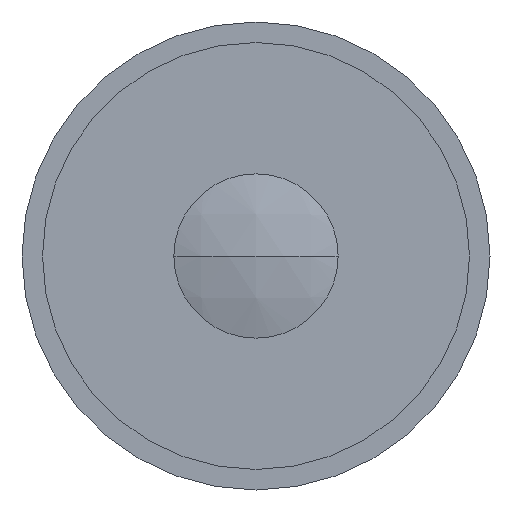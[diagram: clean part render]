
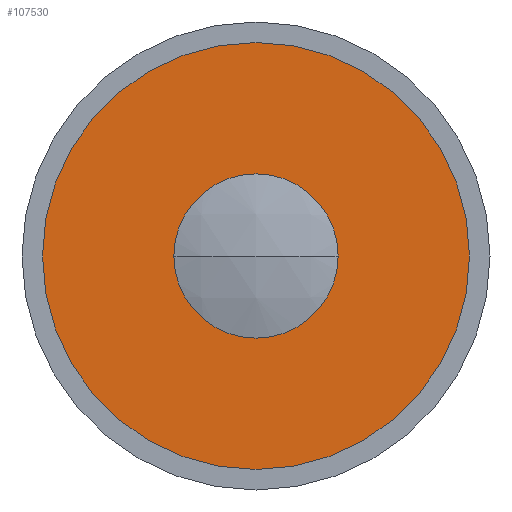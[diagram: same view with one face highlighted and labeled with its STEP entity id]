
A CAD part, front view. The second image highlights one B-rep face of the part: STEP entity #107530.
In plain terms, the highlighted planar face has unit normal (0, -1, 0).
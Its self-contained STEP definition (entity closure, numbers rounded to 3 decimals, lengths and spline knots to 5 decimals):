
#8746 = ORIENTED_EDGE ( 'NONE', *, *, #36482, .F. ) ;
#8953 = EDGE_LOOP ( 'NONE', ( #39293, #105812 ) ) ;
#9617 = CARTESIAN_POINT ( 'NONE',  ( 0., 0.00822, 0. ) ) ;
#11827 = AXIS2_PLACEMENT_3D ( 'NONE', #9617, #94678, #21808 ) ;
#12300 = FACE_BOUND ( 'NONE', #31195, .T. ) ;
#18811 = DIRECTION ( 'NONE',  ( 0., -1., 0. ) ) ;
#21808 = DIRECTION ( 'NONE',  ( 0., 0., -1. ) ) ;
#25323 = CARTESIAN_POINT ( 'NONE',  ( 0., 0.00822, 0. ) ) ;
#30234 = DIRECTION ( 'NONE',  ( 0., 0., -1. ) ) ;
#31195 = EDGE_LOOP ( 'NONE', ( #8746, #141700 ) ) ;
#31411 = FACE_OUTER_BOUND ( 'NONE', #8953, .T. ) ;
#36482 = EDGE_CURVE ( 'NONE', #53793, #111123, #148492, .T. ) ;
#37544 = DIRECTION ( 'NONE',  ( 0., 0., -1. ) ) ;
#39293 = ORIENTED_EDGE ( 'NONE', *, *, #57196, .T. ) ;
#41480 = AXIS2_PLACEMENT_3D ( 'NONE', #115014, #42156, #127264 ) ;
#42156 = DIRECTION ( 'NONE',  ( 0., -1., 0. ) ) ;
#53793 = VERTEX_POINT ( 'NONE', #61799 ) ;
#55250 = EDGE_CURVE ( 'NONE', #96792, #67521, #98872, .T. ) ;
#57196 = EDGE_CURVE ( 'NONE', #67521, #96792, #58861, .T. ) ;
#58861 = CIRCLE ( 'NONE', #11827, 0.13 ) ;
#60402 = CIRCLE ( 'NONE', #117223, 0.05 ) ;
#61486 = CARTESIAN_POINT ( 'NONE',  ( 0., 0.00822, 0.13 ) ) ;
#61799 = CARTESIAN_POINT ( 'NONE',  ( 0., 0.00822, -0.05 ) ) ;
#66172 = AXIS2_PLACEMENT_3D ( 'NONE', #151513, #103113, #30234 ) ;
#67521 = VERTEX_POINT ( 'NONE', #78493 ) ;
#78493 = CARTESIAN_POINT ( 'NONE',  ( 0., 0.00822, -0.13 ) ) ;
#90875 = PLANE ( 'NONE',  #66172 ) ;
#91663 = CARTESIAN_POINT ( 'NONE',  ( 0., 0.00822, 0. ) ) ;
#94678 = DIRECTION ( 'NONE',  ( 0., -1., 0. ) ) ;
#96790 = EDGE_CURVE ( 'NONE', #111123, #53793, #60402, .T. ) ;
#96792 = VERTEX_POINT ( 'NONE', #61486 ) ;
#98872 = CIRCLE ( 'NONE', #41480, 0.13 ) ;
#103113 = DIRECTION ( 'NONE',  ( 0., -1., 0. ) ) ;
#103904 = DIRECTION ( 'NONE',  ( 0., 0., -1. ) ) ;
#105812 = ORIENTED_EDGE ( 'NONE', *, *, #55250, .T. ) ;
#107530 = ADVANCED_FACE ( 'NONE', ( #31411, #12300 ), #90875, .T. ) ;
#110432 = DIRECTION ( 'NONE',  ( 0., -1., 0. ) ) ;
#111123 = VERTEX_POINT ( 'NONE', #119970 ) ;
#115014 = CARTESIAN_POINT ( 'NONE',  ( 0., 0.00822, 0. ) ) ;
#117223 = AXIS2_PLACEMENT_3D ( 'NONE', #25323, #110432, #37544 ) ;
#119970 = CARTESIAN_POINT ( 'NONE',  ( 0., 0.00822, 0.05 ) ) ;
#127236 = AXIS2_PLACEMENT_3D ( 'NONE', #91663, #18811, #103904 ) ;
#127264 = DIRECTION ( 'NONE',  ( 0., 0., -1. ) ) ;
#141700 = ORIENTED_EDGE ( 'NONE', *, *, #96790, .F. ) ;
#148492 = CIRCLE ( 'NONE', #127236, 0.05 ) ;
#151513 = CARTESIAN_POINT ( 'NONE',  ( 0., 0.00822, 0. ) ) ;
